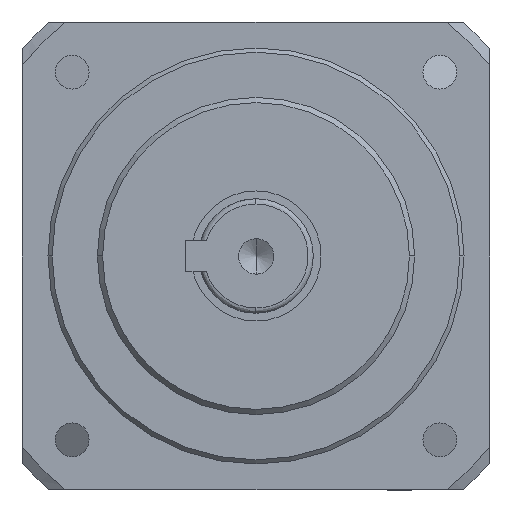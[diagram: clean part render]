
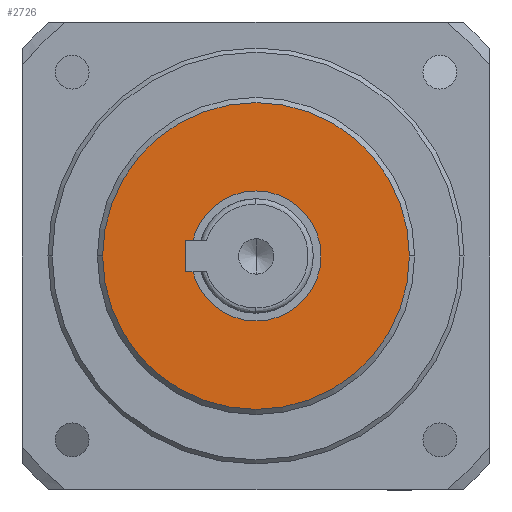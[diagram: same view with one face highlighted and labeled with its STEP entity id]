
A CAD part, left-side view. The second image highlights one B-rep face of the part: STEP entity #2726.
In plain terms, the highlighted planar face has unit normal (-1, 0, 0).
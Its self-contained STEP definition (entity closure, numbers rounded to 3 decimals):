
#12 = VERTEX_POINT ( 'NONE', #2305 ) ;
#56 = CARTESIAN_POINT ( 'NONE',  ( 12.5, 0., 0. ) ) ;
#305 = DIRECTION ( 'NONE',  ( 0., 0., 1. ) ) ;
#354 = FACE_BOUND ( 'NONE', #3091, .T. ) ;
#400 = AXIS2_PLACEMENT_3D ( 'NONE', #1557, #1085, #2833 ) ;
#480 = DIRECTION ( 'NONE',  ( 0., 0., 1. ) ) ;
#580 = PLANE ( 'NONE',  #2124 ) ;
#635 = VERTEX_POINT ( 'NONE', #2794 ) ;
#648 = VERTEX_POINT ( 'NONE', #787 ) ;
#687 = CIRCLE ( 'NONE', #2207, 12.5 ) ;
#693 = ORIENTED_EDGE ( 'NONE', *, *, #1603, .F. ) ;
#717 = CARTESIAN_POINT ( 'NONE',  ( 12.5, 0., 0. ) ) ;
#730 = AXIS2_PLACEMENT_3D ( 'NONE', #56, #3036, #305 ) ;
#787 = CARTESIAN_POINT ( 'NONE',  ( 12.5, -29.5, 0. ) ) ;
#844 = CIRCLE ( 'NONE', #730, 12.5 ) ;
#969 = VERTEX_POINT ( 'NONE', #2252 ) ;
#1043 = DIRECTION ( 'NONE',  ( 1., 0., 0. ) ) ;
#1085 = DIRECTION ( 'NONE',  ( 1., 0., 0. ) ) ;
#1450 = DIRECTION ( 'NONE',  ( 1., 0., 0. ) ) ;
#1557 = CARTESIAN_POINT ( 'NONE',  ( 12.5, 0., 0. ) ) ;
#1575 = ORIENTED_EDGE ( 'NONE', *, *, #2110, .F. ) ;
#1603 = EDGE_CURVE ( 'NONE', #648, #969, #2391, .T. ) ;
#1612 = FACE_OUTER_BOUND ( 'NONE', #3052, .T. ) ;
#1662 = ORIENTED_EDGE ( 'NONE', *, *, #2716, .F. ) ;
#1946 = DIRECTION ( 'NONE',  ( -1., 0., 0. ) ) ;
#2110 = EDGE_CURVE ( 'NONE', #969, #648, #2282, .T. ) ;
#2124 = AXIS2_PLACEMENT_3D ( 'NONE', #2290, #1043, #2801 ) ;
#2189 = CARTESIAN_POINT ( 'NONE',  ( 12.5, 0., 0. ) ) ;
#2207 = AXIS2_PLACEMENT_3D ( 'NONE', #717, #1946, #480 ) ;
#2252 = CARTESIAN_POINT ( 'NONE',  ( 12.5, 29.5, 0. ) ) ;
#2282 = CIRCLE ( 'NONE', #400, 29.5 ) ;
#2290 = CARTESIAN_POINT ( 'NONE',  ( 12.5, 0., -12.5 ) ) ;
#2296 = EDGE_CURVE ( 'NONE', #635, #12, #687, .T. ) ;
#2305 = CARTESIAN_POINT ( 'NONE',  ( 12.5, 0., -12.5 ) ) ;
#2310 = ORIENTED_EDGE ( 'NONE', *, *, #2296, .F. ) ;
#2391 = CIRCLE ( 'NONE', #2905, 29.5 ) ;
#2716 = EDGE_CURVE ( 'NONE', #12, #635, #844, .T. ) ;
#2726 = ADVANCED_FACE ( 'NONE', ( #354, #1612 ), #580, .F. ) ;
#2794 = CARTESIAN_POINT ( 'NONE',  ( 12.5, 0., 12.5 ) ) ;
#2801 = DIRECTION ( 'NONE',  ( 0., 0., -1. ) ) ;
#2833 = DIRECTION ( 'NONE',  ( 0., 1., 0. ) ) ;
#2905 = AXIS2_PLACEMENT_3D ( 'NONE', #2189, #1450, #2924 ) ;
#2924 = DIRECTION ( 'NONE',  ( 0., 1., 0. ) ) ;
#3036 = DIRECTION ( 'NONE',  ( -1., 0., 0. ) ) ;
#3052 = EDGE_LOOP ( 'NONE', ( #1575, #693 ) ) ;
#3091 = EDGE_LOOP ( 'NONE', ( #2310, #1662 ) ) ;
